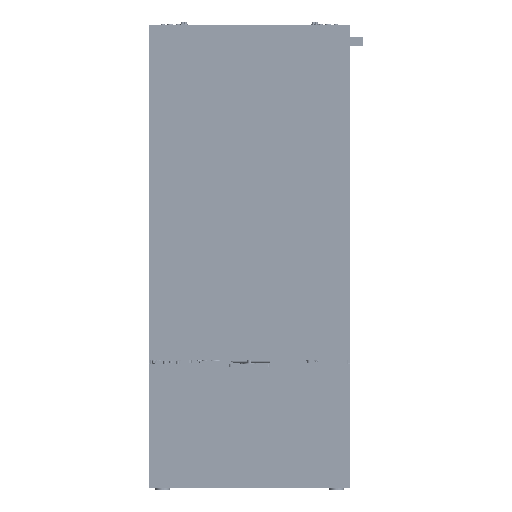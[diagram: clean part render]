
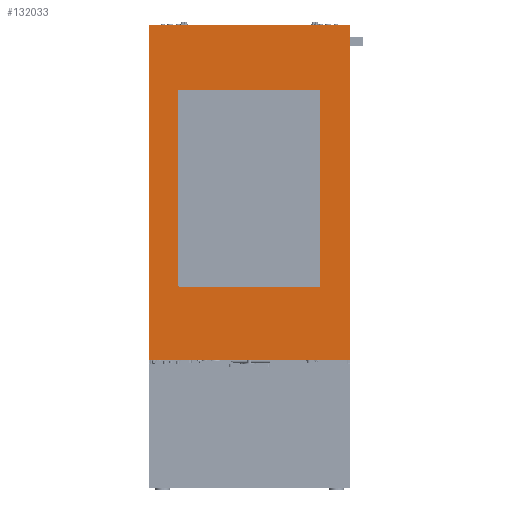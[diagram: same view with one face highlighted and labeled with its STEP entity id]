
A CAD part, front view. The second image highlights one B-rep face of the part: STEP entity #132033.
In plain terms, the highlighted planar face has unit normal (0, -1, 0) as drawn and (0, 0, -1) by its records, which use the part's own axes.
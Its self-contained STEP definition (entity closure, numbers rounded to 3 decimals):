
#5446=FACE_BOUND('',#21066,.T.);
#7904=PLANE('',#145174);
#12808=FACE_OUTER_BOUND('',#21065,.T.);
#21065=EDGE_LOOP('',(#100670,#100671,#100672,#100673,#100674,#100675,#100676,
#100677));
#21066=EDGE_LOOP('',(#100678,#100679,#100680,#100681,#100682,#100683,#100684,
#100685));
#31744=LINE('',#208013,#44012);
#31750=LINE('',#208028,#44018);
#31754=LINE('',#208040,#44022);
#31757=LINE('',#208049,#44025);
#31760=LINE('',#208061,#44028);
#31763=LINE('',#208067,#44031);
#31764=LINE('',#208071,#44032);
#31765=LINE('',#208075,#44033);
#44012=VECTOR('',#166601,10.);
#44018=VECTOR('',#166615,10.);
#44022=VECTOR('',#166627,10.);
#44025=VECTOR('',#166638,10.);
#44028=VECTOR('',#166649,10.);
#44031=VECTOR('',#166654,10.);
#44032=VECTOR('',#166657,10.);
#44033=VECTOR('',#166660,10.);
#53787=CIRCLE('',#145155,1.5);
#53789=CIRCLE('',#145159,1.5);
#53791=CIRCLE('',#145163,1.5);
#53793=CIRCLE('',#145167,1.5);
#53796=CIRCLE('',#145172,1.5);
#53797=CIRCLE('',#145175,1.5);
#53798=CIRCLE('',#145176,1.5);
#53799=CIRCLE('',#145177,1.5);
#61631=VERTEX_POINT('',#208003);
#61632=VERTEX_POINT('',#208004);
#61635=VERTEX_POINT('',#208012);
#61637=VERTEX_POINT('',#208018);
#61638=VERTEX_POINT('',#208019);
#61641=VERTEX_POINT('',#208030);
#61642=VERTEX_POINT('',#208031);
#61645=VERTEX_POINT('',#208042);
#61649=VERTEX_POINT('',#208054);
#61650=VERTEX_POINT('',#208056);
#61651=VERTEX_POINT('',#208060);
#61653=VERTEX_POINT('',#208066);
#61654=VERTEX_POINT('',#208068);
#61655=VERTEX_POINT('',#208070);
#61656=VERTEX_POINT('',#208072);
#61657=VERTEX_POINT('',#208074);
#75972=EDGE_CURVE('',#61631,#61632,#53787,.T.);
#75976=EDGE_CURVE('',#61635,#61632,#31744,.T.);
#75979=EDGE_CURVE('',#61637,#61638,#53789,.T.);
#75984=EDGE_CURVE('',#61631,#61638,#31750,.T.);
#75985=EDGE_CURVE('',#61641,#61642,#53791,.T.);
#75990=EDGE_CURVE('',#61637,#61642,#31754,.T.);
#75991=EDGE_CURVE('',#61635,#61645,#53793,.T.);
#75995=EDGE_CURVE('',#61641,#61645,#31757,.T.);
#75998=EDGE_CURVE('',#61649,#61650,#53796,.T.);
#76000=EDGE_CURVE('',#61650,#61651,#31760,.T.);
#76003=EDGE_CURVE('',#61653,#61649,#31763,.T.);
#76004=EDGE_CURVE('',#61654,#61653,#53797,.T.);
#76005=EDGE_CURVE('',#61655,#61654,#31764,.T.);
#76006=EDGE_CURVE('',#61656,#61655,#53798,.T.);
#76007=EDGE_CURVE('',#61657,#61656,#31765,.T.);
#76008=EDGE_CURVE('',#61651,#61657,#53799,.T.);
#100670=ORIENTED_EDGE('',*,*,#75998,.F.);
#100671=ORIENTED_EDGE('',*,*,#76003,.F.);
#100672=ORIENTED_EDGE('',*,*,#76004,.F.);
#100673=ORIENTED_EDGE('',*,*,#76005,.F.);
#100674=ORIENTED_EDGE('',*,*,#76006,.F.);
#100675=ORIENTED_EDGE('',*,*,#76007,.F.);
#100676=ORIENTED_EDGE('',*,*,#76008,.F.);
#100677=ORIENTED_EDGE('',*,*,#76000,.F.);
#100678=ORIENTED_EDGE('',*,*,#75976,.T.);
#100679=ORIENTED_EDGE('',*,*,#75972,.F.);
#100680=ORIENTED_EDGE('',*,*,#75984,.T.);
#100681=ORIENTED_EDGE('',*,*,#75979,.F.);
#100682=ORIENTED_EDGE('',*,*,#75990,.T.);
#100683=ORIENTED_EDGE('',*,*,#75985,.F.);
#100684=ORIENTED_EDGE('',*,*,#75995,.T.);
#100685=ORIENTED_EDGE('',*,*,#75991,.F.);
#132033=ADVANCED_FACE('',(#12808,#5446),#7904,.F.);
#145155=AXIS2_PLACEMENT_3D('',#208005,#166593,#166594);
#145159=AXIS2_PLACEMENT_3D('',#208020,#166606,#166607);
#145163=AXIS2_PLACEMENT_3D('',#208032,#166618,#166619);
#145167=AXIS2_PLACEMENT_3D('',#208043,#166630,#166631);
#145172=AXIS2_PLACEMENT_3D('',#208057,#166644,#166645);
#145174=AXIS2_PLACEMENT_3D('',#208065,#166652,#166653);
#145175=AXIS2_PLACEMENT_3D('',#208069,#166655,#166656);
#145176=AXIS2_PLACEMENT_3D('',#208073,#166658,#166659);
#145177=AXIS2_PLACEMENT_3D('',#208076,#166661,#166662);
#166593=DIRECTION('center_axis',(0.,0.,-1.));
#166594=DIRECTION('ref_axis',(0.707,0.707,0.));
#166601=DIRECTION('',(0.,1.,0.));
#166606=DIRECTION('center_axis',(0.,0.,-1.));
#166607=DIRECTION('ref_axis',(-0.707,0.707,0.));
#166615=DIRECTION('',(-1.,0.,0.));
#166618=DIRECTION('center_axis',(0.,0.,-1.));
#166619=DIRECTION('ref_axis',(-0.707,-0.707,0.));
#166627=DIRECTION('',(0.,-1.,0.));
#166630=DIRECTION('center_axis',(0.,0.,-1.));
#166631=DIRECTION('ref_axis',(0.707,-0.707,0.));
#166638=DIRECTION('',(1.,0.,0.));
#166644=DIRECTION('center_axis',(0.,0.,1.));
#166645=DIRECTION('ref_axis',(0.707,0.707,0.));
#166649=DIRECTION('',(-1.,0.,0.));
#166652=DIRECTION('center_axis',(0.,0.,1.));
#166653=DIRECTION('ref_axis',(1.,0.,0.));
#166654=DIRECTION('',(0.,1.,0.));
#166655=DIRECTION('center_axis',(0.,0.,1.));
#166656=DIRECTION('ref_axis',(0.707,-0.707,0.));
#166657=DIRECTION('',(1.,0.,0.));
#166658=DIRECTION('center_axis',(0.,0.,1.));
#166659=DIRECTION('ref_axis',(-0.707,-0.707,0.));
#166660=DIRECTION('',(0.,-1.,0.));
#166661=DIRECTION('center_axis',(0.,0.,1.));
#166662=DIRECTION('ref_axis',(-0.707,0.707,0.));
#208003=CARTESIAN_POINT('',(153.5,224.5,0.));
#208004=CARTESIAN_POINT('',(155.,223.,0.));
#208005=CARTESIAN_POINT('Origin',(153.5,223.,0.));
#208012=CARTESIAN_POINT('',(155.,-204.,0.));
#208013=CARTESIAN_POINT('',(155.,-102.75,0.));
#208018=CARTESIAN_POINT('',(-155.,223.,0.));
#208019=CARTESIAN_POINT('',(-153.5,224.5,0.));
#208020=CARTESIAN_POINT('Origin',(-153.5,223.,0.));
#208028=CARTESIAN_POINT('',(77.5,224.5,0.));
#208030=CARTESIAN_POINT('',(-153.5,-205.5,0.));
#208031=CARTESIAN_POINT('',(-155.,-204.,0.));
#208032=CARTESIAN_POINT('Origin',(-153.5,-204.,0.));
#208040=CARTESIAN_POINT('',(-155.,112.25,0.));
#208042=CARTESIAN_POINT('',(153.5,-205.5,0.));
#208043=CARTESIAN_POINT('Origin',(153.5,-204.,0.));
#208049=CARTESIAN_POINT('',(-77.5,-205.5,0.));
#208054=CARTESIAN_POINT('',(220.,365.,0.));
#208056=CARTESIAN_POINT('',(218.5,366.5,0.));
#208057=CARTESIAN_POINT('Origin',(218.5,365.,0.));
#208060=CARTESIAN_POINT('',(-218.5,366.5,0.));
#208061=CARTESIAN_POINT('',(220.,366.5,0.));
#208065=CARTESIAN_POINT('Origin',(0.,0.,0.));
#208066=CARTESIAN_POINT('',(220.,-365.,0.));
#208067=CARTESIAN_POINT('',(220.,-366.5,0.));
#208068=CARTESIAN_POINT('',(218.5,-366.5,0.));
#208069=CARTESIAN_POINT('Origin',(218.5,-365.,0.));
#208070=CARTESIAN_POINT('',(-218.5,-366.5,0.));
#208071=CARTESIAN_POINT('',(-220.,-366.5,0.));
#208072=CARTESIAN_POINT('',(-220.,-365.,0.));
#208073=CARTESIAN_POINT('Origin',(-218.5,-365.,0.));
#208074=CARTESIAN_POINT('',(-220.,365.,0.));
#208075=CARTESIAN_POINT('',(-220.,366.5,0.));
#208076=CARTESIAN_POINT('Origin',(-218.5,365.,0.));
